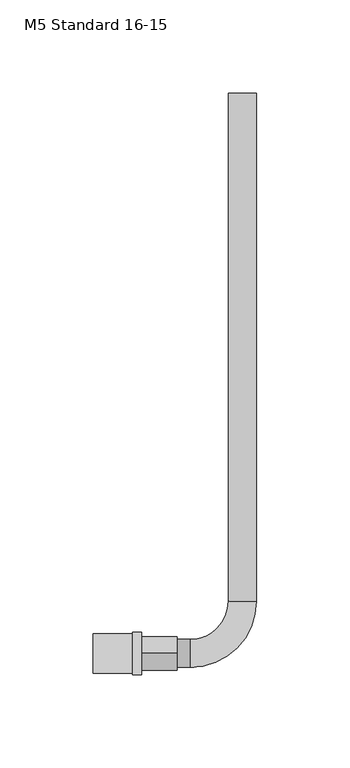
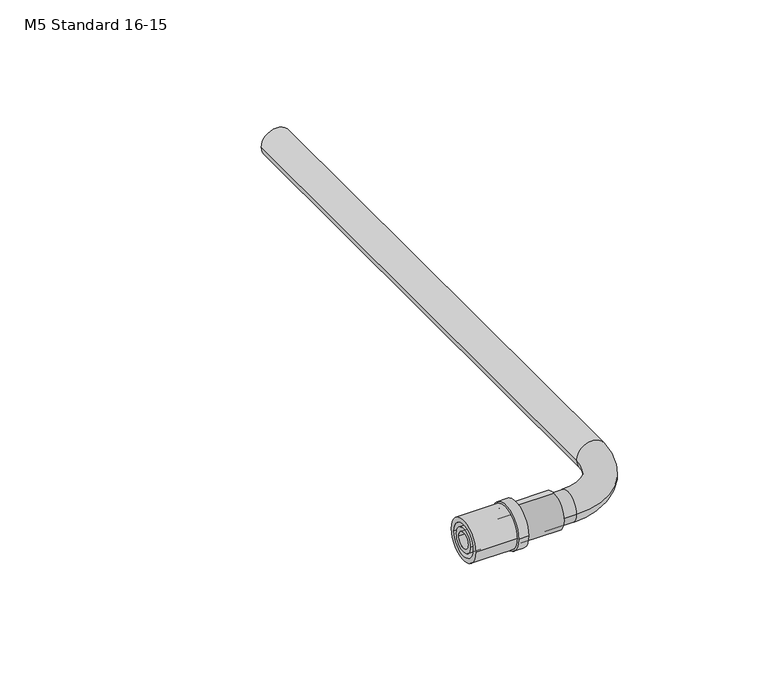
"""IFC4 building model written with IfcOpenShell, lengths in millimetres: pipe fitting geometry, PIF_Tigris_Elbow_Cu_30cm_M5_Wavin : M5 Standard 16-15."""

from ifc_helpers import new_model, si_unit, point, frame, origin, origin_2d, place, context, project, spatial, circle_curve, ellipse_curve, trimmed, segment, composite_curve, outline, extrude, source, transform, mapped, element, save
from ifc_brep_helpers import plane_surface, cylinder_surface, revolved_surface, advanced_brep


def m5_standard_16_15_4857efd0(model_context):
    return source(origin(), model_context, "Body", "SolidModel", [
        extrude(outline(composite_curve([segment(trimmed(circle_curve(origin_2d(), 11.35), [point((-11.35, 0.0))], [point((11.35, 0.0))], False, "CARTESIAN"), True, "CONTINUOUS"), segment(trimmed(circle_curve(origin_2d(), 11.35), [point((11.35, 0.0))], [point((-11.35, 0.0))], False, "CARTESIAN"), True, "CONTINUOUS")], self_intersect=False)), frame((-59.0, 0.0, 0.0), z_axis=(1.0, 0.0, 0.0), x_axis=(0.0, 1.0, 0.0)), (0.0, 0.0, 1.0), 5.0),
        extrude(outline(composite_curve([segment(trimmed(circle_curve(origin_2d(), 10.5), [point((-10.5, 0.0))], [point((10.5, 0.0))], False, "CARTESIAN"), True, "CONTINUOUS"), segment(trimmed(circle_curve(origin_2d(), 10.5), [point((10.5, 0.0))], [point((-10.5, 0.0))], False, "CARTESIAN"), True, "CONTINUOUS")], self_intersect=False), holes=[composite_curve([segment(trimmed(circle_curve(origin_2d(), 8.2), [point((-8.2, 0.0))], [point((8.2, 0.0))], True, "CARTESIAN"), True, "CONTINUOUS"), segment(trimmed(circle_curve(origin_2d(), 8.2), [point((8.2, 0.0))], [point((-8.2, 0.0))], True, "CARTESIAN"), True, "CONTINUOUS")], self_intersect=False)]), frame((-80.0, 0.0, 0.0), z_axis=(1.0, 0.0, 0.0), x_axis=(0.0, 1.0, 0.0)), (0.0, 0.0, 1.0), 21.0),
        extrude(outline(composite_curve([segment(trimmed(circle_curve(origin_2d(), 6.1), [point((-6.1, 0.0))], [point((6.1, 0.0))], False, "CARTESIAN"), True, "CONTINUOUS"), segment(trimmed(circle_curve(origin_2d(), 6.1), [point((6.1, 0.0))], [point((-6.1, 0.0))], False, "CARTESIAN"), True, "CONTINUOUS")], self_intersect=False), holes=[composite_curve([segment(trimmed(circle_curve(origin_2d(), 4.0), [point((-4.0, 0.0))], [point((4.0, 0.0))], True, "CARTESIAN"), True, "CONTINUOUS"), segment(trimmed(circle_curve(origin_2d(), 4.0), [point((4.0, 0.0))], [point((-4.0, 0.0))], True, "CARTESIAN"), True, "CONTINUOUS")], self_intersect=False)]), frame((-80.0, 0.0, 0.0), z_axis=(1.0, 0.0, 0.0), x_axis=(0.0, 1.0, 0.0)), (0.0, 0.0, 1.0), 25.0),
        advanced_brep(
        [(-55.0, 7.5, 0.0), (-55.0, -7.5, 0.0), (-28.0, -7.5, 0.0), (-28.0, 7.5, 0.0), (-7.5, 300.0, 0.0), (7.5, 300.0, 0.0), (7.5, 28.0, 0.0), (-7.5, 28.0, 0.0)],
        [
            (0, 1, circle_curve(frame((-55.0, 0.0, 0.0), z_axis=(-1.0, 0.0, 0.0), x_axis=(0.0, -1.0000000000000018, 0.0)), 7.5)),
            (1, 0, circle_curve(frame((-55.0, 0.0, 0.0), z_axis=(-1.0, 0.0, 0.0), x_axis=(0.0, -1.0000000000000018, 0.0)), 7.5)),
            (1, 2),
            (2, 3, circle_curve(frame((-28.0, 0.0, 0.0), z_axis=(-1.0, 0.0, 0.0), x_axis=(0.0, -1.0000000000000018, 0.0)), 7.5)),
            (3, 0),
            (3, 2, circle_curve(frame((-28.0, 0.0, 0.0), z_axis=(-1.0, 0.0, 0.0), x_axis=(0.0, -1.0000000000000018, 0.0)), 7.5)),
            (4, 5, circle_curve(frame((0.0, 300.0, 0.0), z_axis=(0.0, 1.0, 0.0), x_axis=(1.0000000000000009, 0.0, 0.0)), 7.5)),
            (5, 4, circle_curve(frame((0.0, 300.0, 0.0), z_axis=(0.0, 1.0, 0.0), x_axis=(1.0000000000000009, 0.0, 0.0)), 7.5)),
            (6, 5),
            (4, 7),
            (7, 6, circle_curve(frame((0.0, 28.0, 0.0), z_axis=(0.0, 1.0, 0.0), x_axis=(1.0000000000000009, 0.0, 0.0)), 7.5)),
            (6, 7, circle_curve(frame((0.0, 28.0, 0.0), z_axis=(0.0, 1.0, 0.0), x_axis=(1.0000000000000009, 0.0, 0.0)), 7.5)),
            (7, 3, circle_curve(frame((-28.0, 28.0, 0.0), z_axis=(0.0, 0.0, -1.0), x_axis=(0.0, -1.0000000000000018, 0.0)), 20.5)),
            (2, 6, circle_curve(frame((-28.0, 28.0, 0.0), z_axis=(0.0, 0.0, 1.0), x_axis=(0.0, -1.0000000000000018, 0.0)), 35.5)),
        ],
        [
            plane_surface(frame((-55.0, 0.0, 0.0), z_axis=(-1.0, 0.0, 0.0), x_axis=(0.0, 0.0, 1.0))),
            cylinder_surface(frame((-55.0, 0.0, 0.0), z_axis=(-1.0000000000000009, 0.0, 0.0), x_axis=(0.0, -1.0000000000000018, 0.0)), 7.5),
            plane_surface(frame((0.0, 300.0, 0.0), z_axis=(0.0, 1.0, 0.0), x_axis=(0.0, 0.0, 1.0))),
            cylinder_surface(frame((0.0, 28.0, 0.0), z_axis=(0.0, -1.0000000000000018, 0.0), x_axis=(1.0000000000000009, 0.0, 0.0)), 7.5),
            revolved_surface(trimmed(ellipse_curve(frame((-28.0, 0.0, 0.0), z_axis=(1.0000000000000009, 0.0, 0.0), x_axis=(0.0, -1.0000000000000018, 0.0)), 7.5, 7.5), [point((-28.0, 7.5, 0.0))], [point((-28.0, -7.5, 0.0))], True, "CARTESIAN"), (-28.0, 28.0, 0.0), (0.0, 0.0, -1.0000000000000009)),
            revolved_surface(trimmed(ellipse_curve(frame((-28.0, 0.0, 0.0), z_axis=(1.0000000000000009, 0.0, 0.0), x_axis=(0.0, -1.0000000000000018, 0.0)), 7.5, 7.5), [point((-28.0, -7.5, 0.0))], [point((-28.0, 7.5, 0.0))], True, "CARTESIAN"), (-28.0, 28.0, 0.0), (0.0, 0.0, -1.0000000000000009)),
        ],
        [
            (0, [[1, 2]]),
            (1, [[3, 4, 5, -2]]),
            (1, [[-5, 6, -3, -1]]),
            (2, [[7, 8]]),
            (3, [[9, -7, 10, 11]]),
            (3, [[-10, -8, -9, 12]]),
            (4, [[-11, 13, -4, 14]]),
            (5, [[-12, -14, -6, -13]]),
        ],
    ),
        extrude(outline(composite_curve([segment(trimmed(circle_curve(origin_2d(), 9.0), [point((0.0, -9.0))], [point((0.0, 9.0))], False, "CARTESIAN"), True, "CONTINUOUS"), segment(trimmed(circle_curve(origin_2d(), 9.0), [point((0.0, 9.0))], [point((0.0, -9.0))], False, "CARTESIAN"), True, "CONTINUOUS")], self_intersect=False)), frame((-54.0, 0.0, 0.0), z_axis=(1.0, 0.0, 0.0), x_axis=(0.0, 1.0, 0.0)), (0.0, 0.0, 1.0), 19.0),
    ])


if __name__ == "__main__":
    model = new_model("IFC4")
    model_context = context("Model", 3, world=origin())
    ifc_project = project(units=[si_unit("LENGTHUNIT", "METRE", prefix="MILLI")], contexts=[model_context])
    site = spatial("IfcSite", under=ifc_project)
    building = spatial("IfcBuilding", under=site)
    placement = place(None, origin())
    m5_standard_16_15_shape = m5_standard_16_15_4857efd0(model_context)
    element("IfcPipeFitting", 1, ObjectType="PIF_Tigris_Elbow_Cu_30cm_M5_Wavin : M5 Standard 16-15", at=placement, inside=building, context=model_context, shape_type="MappedRepresentation", body=[
        mapped(m5_standard_16_15_shape, transform((0.0, 0.0, 0.0), x_axis=(1.0, 0.0, 0.0), y_axis=(0.0, 1.0, 0.0), z_axis=(0.0, 0.0, 1.0))),
    ])
    save(model, "model.ifc")
